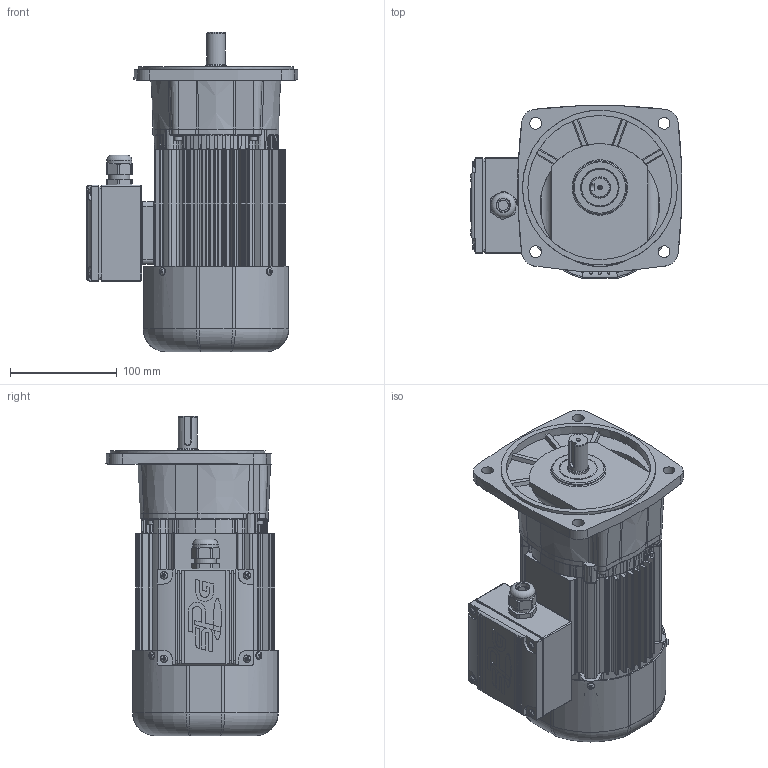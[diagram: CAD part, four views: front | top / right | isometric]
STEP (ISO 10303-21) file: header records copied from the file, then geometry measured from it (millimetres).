
FILE_DESCRIPTION(/* description */ (''),/* implementation_level */ '2;1');
FILE_NAME(/* name */ 'Z:\동력 3D 파일\PAF18-(5~25)-MC(D)020[ ]L_(3D).stp',/* time_stamp */ '2021-11-04T11:38:17+09:00',/* author */ ('jaebok'),/* organization */ (''),/* preprocessor_version */ 'ST-DEVELOPER v18.1',/* originating_system */ 'Autodesk Inventor 2022',/* authorisation */ '');
FILE_SCHEMA (('AUTOMOTIVE_DESIGN { 1 0 10303 214 3 1 1 }'));
Products named in the file (1): 부품2
Bounding box: 198.26 x 161.46 x 299 mm (x, y, z)
Volume: 1371109.6 mm3; surface area: 517485.2 mm2
Topology: 3 solids, 34 shells, 2736 faces, 7082 edges, 4399 vertices
Faces by surface type: plane 1127, cylinder 841, bspline 360, torus 178, cone 174, sphere 56
Full cylindrical faces by diameter (mm): 1.5 x2, 2 x5, 3 x4, 3.242 x4, 3.25 x1, 3.3 x8, 3.4 x4, 3.6 x4, 3.8 x3, 4 x24, 4.2 x9, 4.5 x4, 4.917 x4, 5 x20, 5.8 x2, 5.9 x3, 6 x13, 6.4 x1, 6.5 x10, 7 x16, 7.9 x6, 8 x4, 8.5 x1, 8.7 x1, 10 x1, 11 x4, 12 x1, 12.5 x1, 13 x1, 15 x1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
Entity records: 100489 total; most frequent: CARTESIAN_POINT 34094, ORIENTED_EDGE 13870, DIRECTION 13315, EDGE_CURVE 6935, AXIS2_PLACEMENT_3D 5237, VERTEX_POINT 4394, EDGE_LOOP 3002, LINE 2841
